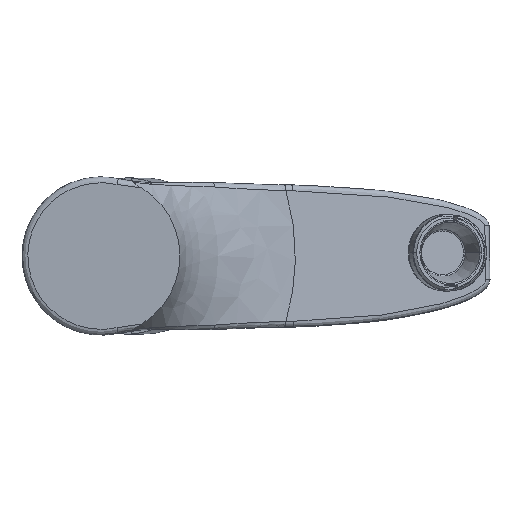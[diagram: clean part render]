
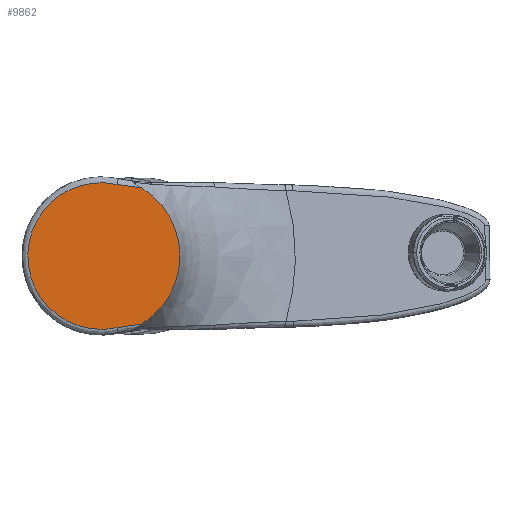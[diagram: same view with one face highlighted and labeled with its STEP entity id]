
A CAD part, front view. The second image highlights one B-rep face of the part: STEP entity #9862.
In plain terms, the highlighted planar face has unit normal (0, -1, -0.003).
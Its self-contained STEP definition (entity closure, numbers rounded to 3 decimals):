
#23 = CARTESIAN_POINT ( 'NONE',  ( -8.971, 0.064, -23.187 ) ) ;
#33 = CARTESIAN_POINT ( 'NONE',  ( 13.966, 0.064, -23.107 ) ) ;
#535 = CARTESIAN_POINT ( 'NONE',  ( 0., 0., 0. ) ) ;
#571 = ORIENTED_EDGE ( 'NONE', *, *, #4110, .F. ) ;
#616 = CARTESIAN_POINT ( 'NONE',  ( -15.693, -0.053, 19.101 ) ) ;
#811 = CARTESIAN_POINT ( 'NONE',  ( -21.775, -0.032, 11.579 ) ) ;
#824 = B_SPLINE_CURVE_WITH_KNOTS ( 'NONE', 3,
 ( #1624, #8378, #4958, #10983 ),
 .UNSPECIFIED., .F., .F.,
 ( 4, 4 ),
 ( 0., 0.008 ),
 .UNSPECIFIED. ) ;
#849 = CARTESIAN_POINT ( 'NONE',  ( -23.55, 0.02, -7.323 ) ) ;
#893 = CARTESIAN_POINT ( 'NONE',  ( -4.503, 0.068, -24.442 ) ) ;
#1054 = CARTESIAN_POINT ( 'NONE',  ( 13.966, 0.064, -23.107 ) ) ;
#1360 = AXIS2_PLACEMENT_3D ( 'NONE', #535, #6607, #1424 ) ;
#1424 = DIRECTION ( 'NONE',  ( 0., -0.003, 1. ) ) ;
#1512 = CARTESIAN_POINT ( 'NONE',  ( -16.74, -0.05, 18.177 ) ) ;
#1624 = CARTESIAN_POINT ( 'NONE',  ( 13.987, -0.064, 23.095 ) ) ;
#1724 = CARTESIAN_POINT ( 'NONE',  ( -22.986, -0.025, 9.083 ) ) ;
#1763 = CARTESIAN_POINT ( 'NONE',  ( -22.579, 0.028, -9.947 ) ) ;
#1803 = CARTESIAN_POINT ( 'NONE',  ( -1.75, 0.069, -24.818 ) ) ;
#2300 = VERTEX_POINT ( 'NONE', #1054 ) ;
#2361 = CARTESIAN_POINT ( 'NONE',  ( -1.77, -0.069, 24.804 ) ) ;
#2494 = CARTESIAN_POINT ( 'NONE',  ( 5.636, 0.067, -24.285 ) ) ;
#2602 = CARTESIAN_POINT ( 'NONE',  ( -24.114, -0.014, 5.066 ) ) ;
#2618 = B_SPLINE_CURVE_WITH_KNOTS ( 'NONE', 3,
 ( #7793, #6959, #5263, #33 ),
 .UNSPECIFIED., .F., .F.,
 ( 4, 4 ),
 ( 0., 0.008 ),
 .UNSPECIFIED. ) ;
#2640 = CARTESIAN_POINT ( 'NONE',  ( -20.401, 0.039, -14.011 ) ) ;
#2690 = CARTESIAN_POINT ( 'NONE',  ( 1.016, 0.069, -24.884 ) ) ;
#2922 = DIRECTION ( 'NONE',  ( 0., 1., 0.003 ) ) ;
#3178 = EDGE_CURVE ( 'NONE', #4059, #6225, #5269, .T. ) ;
#3233 = CARTESIAN_POINT ( 'NONE',  ( -4.513, -0.068, 24.428 ) ) ;
#3425 = CARTESIAN_POINT ( 'NONE',  ( -17.075, -0.05, 17.858 ) ) ;
#3464 = FACE_OUTER_BOUND ( 'NONE', #9642, .T. ) ;
#3467 = CARTESIAN_POINT ( 'NONE',  ( -24.361, -0.01, 3.688 ) ) ;
#3504 = CARTESIAN_POINT ( 'NONE',  ( -16.77, 0.051, -18.249 ) ) ;
#3540 = CARTESIAN_POINT ( 'NONE',  ( 3.799, 0.068, -24.64 ) ) ;
#4059 = VERTEX_POINT ( 'NONE', #5516 ) ;
#4091 = CARTESIAN_POINT ( 'NONE',  ( -7.201, -0.066, 23.749 ) ) ;
#4110 = EDGE_CURVE ( 'NONE', #8593, #2300, #6492, .T. ) ;
#4295 = CARTESIAN_POINT ( 'NONE',  ( -18.665, -0.045, 16.186 ) ) ;
#4333 = CARTESIAN_POINT ( 'NONE',  ( -24.581, -0.005, 1.84 ) ) ;
#4371 = CARTESIAN_POINT ( 'NONE',  ( -13.856, 0.057, -20.523 ) ) ;
#4410 = CARTESIAN_POINT ( 'NONE',  ( 5.636, 0.067, -24.285 ) ) ;
#4615 = CARTESIAN_POINT ( 'NONE',  ( 0., 0., 0. ) ) ;
#4958 = CARTESIAN_POINT ( 'NONE',  ( 8.389, -0.066, 23.66 ) ) ;
#4964 = CARTESIAN_POINT ( 'NONE',  ( -9.82, -0.063, 22.763 ) ) ;
#5162 = CARTESIAN_POINT ( 'NONE',  ( -20.348, -0.039, 13.983 ) ) ;
#5207 = CARTESIAN_POINT ( 'NONE',  ( -24.631, 0.005, -1.895 ) ) ;
#5256 = CARTESIAN_POINT ( 'NONE',  ( -11.464, 0.061, -21.975 ) ) ;
#5263 = CARTESIAN_POINT ( 'NONE',  ( 11.158, 0.065, -23.281 ) ) ;
#5269 = B_SPLINE_CURVE_WITH_KNOTS ( 'NONE', 3,
 ( #6655, #10817, #8947, #7546, #2361, #8419, #3233, #9257, #4091, #10118, #4964, #10986, #5839, #616, #6690, #1512, #3425, #9463, #4295, #10315, #5162, #11176, #6045, #811, #6908, #1724, #7783, #2602, #8653, #3467, #9499, #4333, #10356, #5207, #11207, #6085, #849, #6952, #1763, #7827, #2640, #8691, #3504, #9542, #4371, #10399, #5256, #23, #6124, #893, #6992, #1803, #7868, #2690, #8726, #3540, #9589, #4410 ),
 .UNSPECIFIED., .F., .F.,
 ( 4, 2, 2, 2, 2, 2, 2, 2, 2, 2, 2, 2, 2, 2, 2, 2, 2, 2, 2, 2, 2, 2, 2, 2, 2, 2, 2, 2, 4 ),
 ( 0., 0.006, 0.008, 0.011, 0.014, 0.017, 0.022, 0.024, 0.025, 0.028, 0.031, 0.032, 0.033, 0.039, 0.04, 0.042, 0.045, 0.05, 0.053, 0.056, 0.061, 0.067, 0.07, 0.072, 0.078, 0.081, 0.084, 0.086, 0.089 ),
 .UNSPECIFIED. ) ;
#5516 = CARTESIAN_POINT ( 'NONE',  ( 5.637, -0.067, 24.274 ) ) ;
#5839 = CARTESIAN_POINT ( 'NONE',  ( -13.873, -0.057, 20.563 ) ) ;
#6045 = CARTESIAN_POINT ( 'NONE',  ( -21.328, -0.034, 12.393 ) ) ;
#6085 = CARTESIAN_POINT ( 'NONE',  ( -23.806, 0.018, -6.432 ) ) ;
#6124 = CARTESIAN_POINT ( 'NONE',  ( -7.232, 0.066, -23.806 ) ) ;
#6225 = VERTEX_POINT ( 'NONE', #2494 ) ;
#6492 = CIRCLE ( 'NONE', #1360, 27. ) ;
#6607 = DIRECTION ( 'NONE',  ( 0., 1., 0.003 ) ) ;
#6618 = AXIS2_PLACEMENT_3D ( 'NONE', #4615, #2922, #8955 ) ;
#6655 = CARTESIAN_POINT ( 'NONE',  ( 5.637, -0.067, 24.274 ) ) ;
#6690 = CARTESIAN_POINT ( 'NONE',  ( -16.049, -0.052, 18.799 ) ) ;
#6908 = CARTESIAN_POINT ( 'NONE',  ( -21.987, -0.031, 11.167 ) ) ;
#6952 = CARTESIAN_POINT ( 'NONE',  ( -22.934, 0.025, -9.089 ) ) ;
#6959 = CARTESIAN_POINT ( 'NONE',  ( 8.382, 0.066, -23.674 ) ) ;
#6992 = CARTESIAN_POINT ( 'NONE',  ( -3.586, 0.068, -24.602 ) ) ;
#7268 = ORIENTED_EDGE ( 'NONE', *, *, #10304, .T. ) ;
#7546 = CARTESIAN_POINT ( 'NONE',  ( -0.842, -0.069, 24.862 ) ) ;
#7716 = CARTESIAN_POINT ( 'NONE',  ( 13.987, -0.064, 23.095 ) ) ;
#7783 = CARTESIAN_POINT ( 'NONE',  ( -23.596, -0.02, 7.341 ) ) ;
#7793 = CARTESIAN_POINT ( 'NONE',  ( 5.636, 0.067, -24.285 ) ) ;
#7827 = CARTESIAN_POINT ( 'NONE',  ( -21.379, 0.035, -12.445 ) ) ;
#7868 = CARTESIAN_POINT ( 'NONE',  ( -0.83, 0.069, -24.874 ) ) ;
#8104 = PLANE ( 'NONE',  #6618 ) ;
#8378 = CARTESIAN_POINT ( 'NONE',  ( 11.173, -0.065, 23.267 ) ) ;
#8419 = CARTESIAN_POINT ( 'NONE',  ( -3.605, -0.068, 24.587 ) ) ;
#8593 = VERTEX_POINT ( 'NONE', #7716 ) ;
#8653 = CARTESIAN_POINT ( 'NONE',  ( -24.205, -0.013, 4.607 ) ) ;
#8691 = CARTESIAN_POINT ( 'NONE',  ( -18.076, 0.047, -16.94 ) ) ;
#8726 = CARTESIAN_POINT ( 'NONE',  ( 1.942, 0.069, -24.838 ) ) ;
#8882 = ORIENTED_EDGE ( 'NONE', *, *, #3178, .T. ) ;
#8947 = CARTESIAN_POINT ( 'NONE',  ( 1.963, -0.069, 24.878 ) ) ;
#8955 = DIRECTION ( 'NONE',  ( 0., -0.003, 1. ) ) ;
#9257 = CARTESIAN_POINT ( 'NONE',  ( -6.311, -0.067, 24.009 ) ) ;
#9463 = CARTESIAN_POINT ( 'NONE',  ( -18.052, -0.047, 16.875 ) ) ;
#9499 = CARTESIAN_POINT ( 'NONE',  ( -24.425, -0.009, 3.227 ) ) ;
#9542 = CARTESIAN_POINT ( 'NONE',  ( -14.61, 0.055, -19.983 ) ) ;
#9589 = CARTESIAN_POINT ( 'NONE',  ( 4.723, 0.068, -24.489 ) ) ;
#9642 = EDGE_LOOP ( 'NONE', ( #571, #9935, #8882, #7268 ) ) ;
#9862 = ADVANCED_FACE ( 'NONE', ( #3464 ), #8104, .F. ) ;
#9935 = ORIENTED_EDGE ( 'NONE', *, *, #10101, .T. ) ;
#10101 = EDGE_CURVE ( 'NONE', #8593, #4059, #824, .T. ) ;
#10118 = CARTESIAN_POINT ( 'NONE',  ( -8.962, -0.064, 23.124 ) ) ;
#10304 = EDGE_CURVE ( 'NONE', #6225, #2300, #2618, .T. ) ;
#10315 = CARTESIAN_POINT ( 'NONE',  ( -19.813, -0.041, 14.74 ) ) ;
#10356 = CARTESIAN_POINT ( 'NONE',  ( -24.633, -0.003, 0.91 ) ) ;
#10399 = CARTESIAN_POINT ( 'NONE',  ( -12.277, 0.06, -21.523 ) ) ;
#10817 = CARTESIAN_POINT ( 'NONE',  ( 3.811, -0.068, 24.68 ) ) ;
#10983 = CARTESIAN_POINT ( 'NONE',  ( 5.637, -0.067, 24.274 ) ) ;
#10986 = CARTESIAN_POINT ( 'NONE',  ( -12.312, -0.06, 21.549 ) ) ;
#11176 = CARTESIAN_POINT ( 'NONE',  ( -21.091, -0.036, 12.796 ) ) ;
#11207 = CARTESIAN_POINT ( 'NONE',  ( -24.421, 0.01, -3.73 ) ) ;
